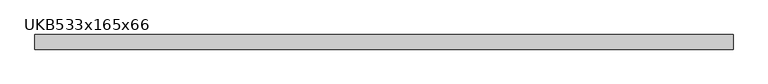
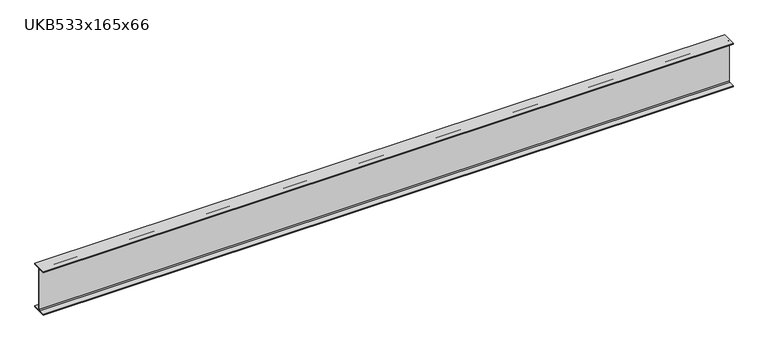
"""IFC4 building model written with IfcOpenShell, lengths in millimetres: beam geometry, UKB-UK Beams : UKB533x165x66."""

from ifc_helpers import new_model, si_unit, point, frame, frame_2d, origin, place, context, project, spatial, polyline, circle_curve, trimmed, segment, composite_curve, outline, extrude, source, transform, mapped, element, save


def ukb533x165x66_25363bf0(model_context):
    return source(origin(), model_context, "Body", "SweptSolid", [
        extrude(outline(composite_curve([segment(polyline([(82.55, -250.95), (82.55, -262.35), (-82.55, -262.35), (-82.55, -250.95), (-17.15, -250.95)]), True, "CONTINUOUS"), segment(trimmed(circle_curve(frame_2d((-17.15, -238.25)), 12.7), [point((-17.15, -250.95))], [point((-4.45, -238.25))], True, "CARTESIAN"), True, "CONTINUOUS"), segment(polyline([(-4.45, -238.25), (-4.45, 238.25)]), True, "CONTINUOUS"), segment(trimmed(circle_curve(frame_2d((-17.15, 238.25)), 12.7), [point((-4.45, 238.25))], [point((-17.15, 250.95))], True, "CARTESIAN"), True, "CONTINUOUS"), segment(polyline([(-17.15, 250.95), (-82.55, 250.95), (-82.55, 262.35), (82.55, 262.35), (82.55, 250.95), (17.15, 250.95)]), True, "CONTINUOUS"), segment(trimmed(circle_curve(frame_2d((17.15, 238.25)), 12.7), [point((17.15, 250.95))], [point((4.45, 238.25))], True, "CARTESIAN"), True, "CONTINUOUS"), segment(polyline([(4.45, 238.25), (4.45, -238.25)]), True, "CONTINUOUS"), segment(trimmed(circle_curve(frame_2d((17.15, -238.25)), 12.7), [point((4.45, -238.25))], [point((17.15, -250.95))], True, "CARTESIAN"), True, "CONTINUOUS"), segment(polyline([(17.15, -250.95), (82.55, -250.95)]), True, "CONTINUOUS")], self_intersect=False)), frame((-3941.0, 0.0, 0.0), z_axis=(1.0, 0.0, 0.0), x_axis=(0.0, 1.0, 0.0)), (0.0, 0.0, 1.0), 7882.0),
    ])


if __name__ == "__main__":
    model = new_model("IFC4")
    model_context = context("Model", 3, world=origin())
    ifc_project = project(units=[si_unit("LENGTHUNIT", "METRE", prefix="MILLI")], contexts=[model_context])
    site = spatial("IfcSite", under=ifc_project)
    building = spatial("IfcBuilding", under=site)
    placement = place(None, origin())
    ukb533x165x66_shape = ukb533x165x66_25363bf0(model_context)
    element("IfcBeam", 1, ObjectType="UKB-UK Beams : UKB533x165x66", at=placement, inside=building, context=model_context, shape_type="MappedRepresentation", body=[
        mapped(ukb533x165x66_shape, transform((0.0, 0.0, 0.0), x_axis=(1.0, 0.0, 0.0), y_axis=(0.0, 1.0, 0.0), z_axis=(0.0, 0.0, 1.0))),
    ])
    save(model, "model.ifc")
